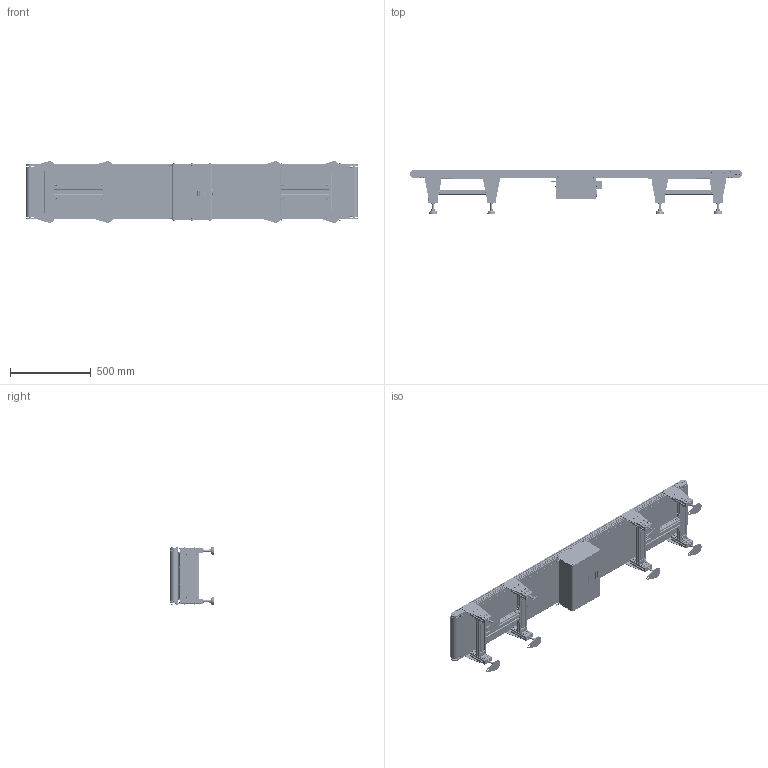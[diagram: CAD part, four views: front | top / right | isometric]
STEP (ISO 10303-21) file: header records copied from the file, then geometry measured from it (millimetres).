
FILE_DESCRIPTION(/* description */ (''),/* implementation_level */ '2;1');
FILE_NAME(/* name */ 'beltconveyor_a006_w300_l2000.stp',/* time_stamp */ '2024-12-14T23:06:51+08:00',/* author */ (''),/* organization */ (''),/* preprocessor_version */ 'ST-DEVELOPER v16.7',/* originating_system */ 'SIEMENS PLM Software NX 12.0',/* authorisation */ '');
FILE_SCHEMA (('AUTOMOTIVE_DESIGN { 1 0 10303 214 3 1 1 1 }'));
Products named in the file (24): HJCVGR-300-2000-40-H_b; HJCVGR40-TA220-IM-50-A; HJHFS6-3060-300; HJCVGR-300-40-TA220-IM-50-A_mc; HJHFS6-3060-280; HJFJKN12-100screw; HJCVGR-300-2000-40_l; HJCapasitor-40-T200-IM-A; HJCSTW_b; HJCVS__Nut-M3; HJCVS_bolt6-60; HJCS_L_BRACKET; HJMOTOR40_w; HJFJKN12-100pad; HJMOTOR40_n; HJHFS6-3060-119; HJCSTS6-12; HJCVS_bolt5-12; HJHLF6-3060-12; HJCVS__Nut-M6; HJCSTS8-25; HJCSTW_l_b; HJHNTT6-6_3; beltconveyor_a006_w300_l2000
Assembly tree (199 placements, depth 2):
  beltconveyor_a006_w300_l2000
    HJHNTT6-6_3  x32
    HJCSTW_l_b  x16
    HJCSTS8-25  x16
    HJCVS__Nut-M6  x16
    HJHLF6-3060-12  x8
    HJCVS_bolt5-12  x8
    HJCSTS6-12  x32
    HJHFS6-3060-119  x8
    HJMOTOR40_n  x4
    HJFJKN12-100pad  x8
    HJMOTOR40_w  x4
    HJCS_L_BRACKET  x8
    HJCVS_bolt6-60  x4
    HJCVS__Nut-M3  x8
    HJCSTW_b  x8
    HJCapasitor-40-T200-IM-A
    HJCVGR-300-2000-40_l
    HJFJKN12-100screw  x8
    HJHFS6-3060-280  x4
    HJCVGR-300-40-TA220-IM-50-A_mc
    HJHFS6-3060-300  x2
    HJCVGR40-TA220-IM-50-A
    HJCVGR-300-2000-40-H_b
Bounding box: 2051.8 x 271.44 x 379.94 mm (x, y, z)
Volume: 13483528 mm3; surface area: 8495910.8 mm2
Topology: 270 solids, 270 shells, 10885 faces, 27031 edges, 17392 vertices
Faces by surface type: plane 6933, cylinder 2148, cone 1244, extrusion 492, torus 34, bspline 32, sphere 2
Entity records: 126957 total; most frequent: CARTESIAN_POINT 31256, ORIENTED_EDGE 19924, DIRECTION 18000, EDGE_CURVE 9962, VECTOR 6656, VERTEX_POINT 6464, LINE 6164, AXIS2_PLACEMENT_3D 5672
